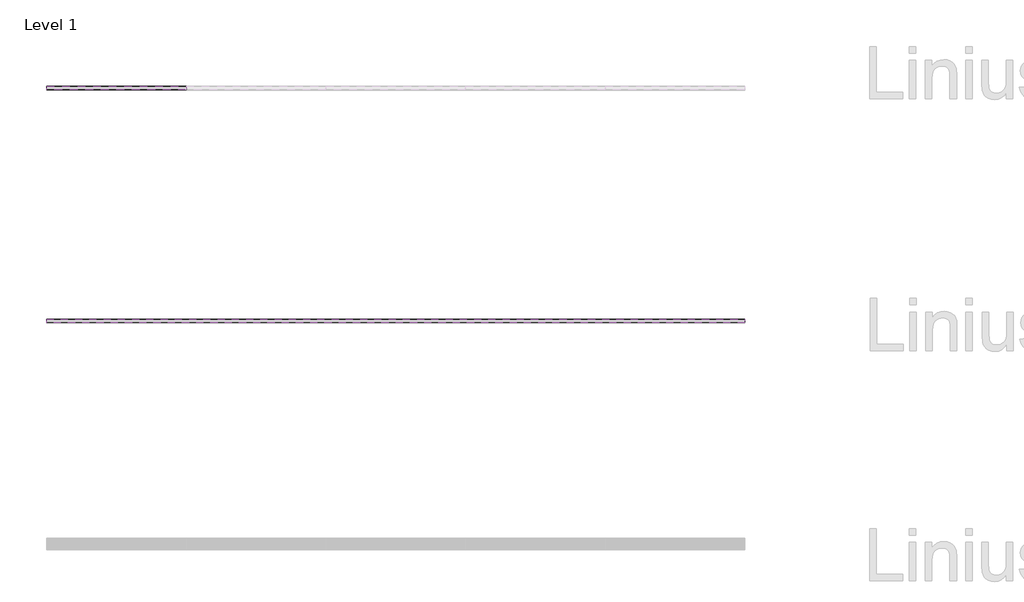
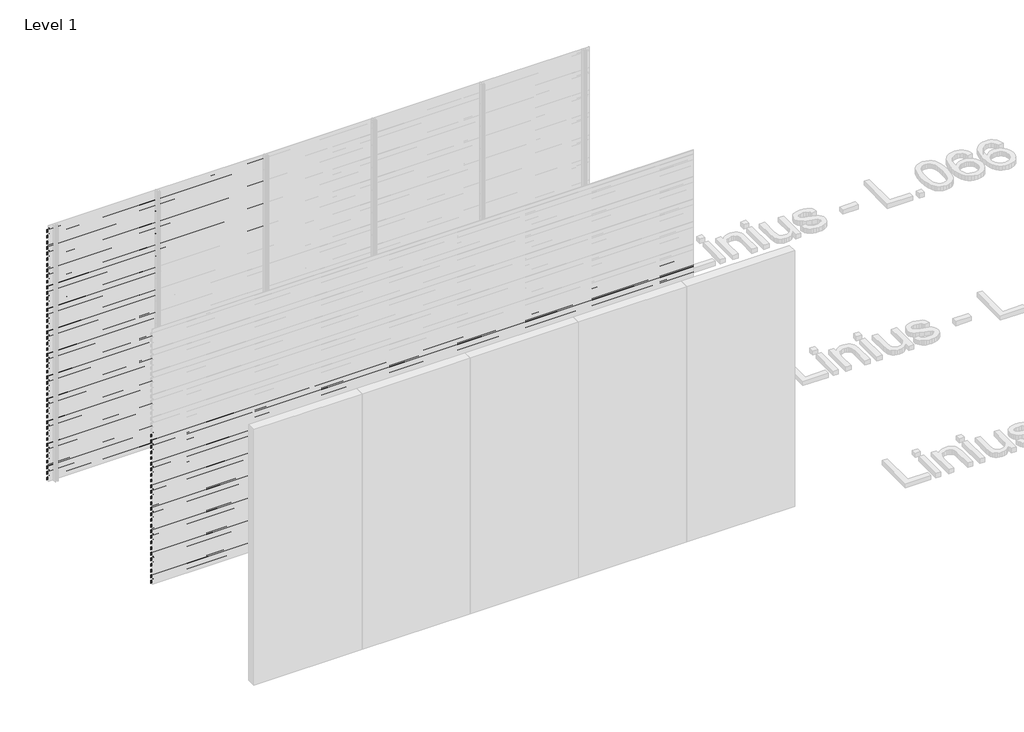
# One storey, part 108 of 540: 85 proxies.
"""IFC4 building model written with IfcOpenShell, lengths in millimetres."""

from ifc_helpers import new_model, si_unit, frame, origin, place, context, project, spatial, polyline, outline, extrude, element, save

model = new_model("IFC4")

# Units and contexts
model_context = context("Model", 3, world=origin())
ifc_project = project(units=[si_unit("LENGTHUNIT", "METRE", prefix="MILLI")], contexts=[model_context])

# Site, building, storey
site = spatial("IfcSite", under=ifc_project)
building = spatial("IfcBuilding", under=site)
storey = spatial("IfcBuildingStorey", under=building, Name="Level 1", Elevation=0.0)

# Proxies
placement = place(None, origin())
element("IfcBuildingElementProxy", 1, Name="Wall Sweeps", at=placement, inside=storey, context=model_context, shape_type="SweptSolid", body=[
    extrude(outline(polyline([(59014.0540136, 2930.0), (59014.0540136, 2897.0), (59012.8040136, 2897.7216933), (59012.8040136, 2929.2872415), (58983.0540136, 2950.0588647), (58983.0540136, 2970.0), (58984.3040136, 2970.0), (58984.3040136, 2950.7716232), (59014.0540136, 2930.0)])), frame((44966.6208097, 0.0, 0.0), z_axis=(1.0, 0.0, 0.0), x_axis=(0.0, 1.0, 0.0)), (0.0, 0.0, 1.0), 1200.0),
])
element("IfcBuildingElementProxy", 2, Name="Wall Sweeps", at=placement, inside=storey, context=model_context, shape_type="SweptSolid", body=[
    extrude(outline(polyline([(59014.0540136, 2864.0), (59014.0540136, 2831.0), (59012.8040136, 2831.7216933), (59012.8040136, 2863.2872415), (58983.0540136, 2884.0588647), (58983.0540136, 2904.0), (58984.3040136, 2904.0), (58984.3040136, 2884.7716232), (59014.0540136, 2864.0)])), frame((44966.6208097, 0.0, 0.0), z_axis=(1.0, 0.0, 0.0), x_axis=(0.0, 1.0, 0.0)), (0.0, 0.0, 1.0), 1200.0),
])
element("IfcBuildingElementProxy", 3, Name="Wall Sweeps", at=placement, inside=storey, context=model_context, shape_type="SweptSolid", body=[
    extrude(outline(polyline([(59014.0540136, 2798.0), (59014.0540136, 2765.0), (59012.8040136, 2765.7216933), (59012.8040136, 2797.2872415), (58983.0540136, 2818.0588647), (58983.0540136, 2838.0), (58984.3040136, 2838.0), (58984.3040136, 2818.7716232), (59014.0540136, 2798.0)])), frame((44966.6208097, 0.0, 0.0), z_axis=(1.0, 0.0, 0.0), x_axis=(0.0, 1.0, 0.0)), (0.0, 0.0, 1.0), 1200.0),
])
element("IfcBuildingElementProxy", 4, Name="Wall Sweeps", at=placement, inside=storey, context=model_context, shape_type="SweptSolid", body=[
    extrude(outline(polyline([(59014.0540136, 2732.0), (59014.0540136, 2699.0), (59012.8040136, 2699.7216933), (59012.8040136, 2731.2872415), (58983.0540136, 2752.0588647), (58983.0540136, 2772.0), (58984.3040136, 2772.0), (58984.3040136, 2752.7716232), (59014.0540136, 2732.0)])), frame((44966.6208097, 0.0, 0.0), z_axis=(1.0, 0.0, 0.0), x_axis=(0.0, 1.0, 0.0)), (0.0, 0.0, 1.0), 1200.0),
])
element("IfcBuildingElementProxy", 5, Name="Wall Sweeps", at=placement, inside=storey, context=model_context, shape_type="SweptSolid", body=[
    extrude(outline(polyline([(59014.0540136, 2666.0), (59014.0540136, 2633.0), (59012.8040136, 2633.7216933), (59012.8040136, 2665.2872415), (58983.0540136, 2686.0588647), (58983.0540136, 2706.0), (58984.3040136, 2706.0), (58984.3040136, 2686.7716232), (59014.0540136, 2666.0)])), frame((44966.6208097, 0.0, 0.0), z_axis=(1.0, 0.0, 0.0), x_axis=(0.0, 1.0, 0.0)), (0.0, 0.0, 1.0), 1200.0),
])
element("IfcBuildingElementProxy", 6, Name="Wall Sweeps", at=placement, inside=storey, context=model_context, shape_type="SweptSolid", body=[
    extrude(outline(polyline([(59014.0540136, 2600.0), (59014.0540136, 2567.0), (59012.8040136, 2567.7216933), (59012.8040136, 2599.2872415), (58983.0540136, 2620.0588647), (58983.0540136, 2640.0), (58984.3040136, 2640.0), (58984.3040136, 2620.7716232), (59014.0540136, 2600.0)])), frame((44966.6208097, 0.0, 0.0), z_axis=(1.0, 0.0, 0.0), x_axis=(0.0, 1.0, 0.0)), (0.0, 0.0, 1.0), 1200.0),
])
element("IfcBuildingElementProxy", 7, Name="Wall Sweeps", at=placement, inside=storey, context=model_context, shape_type="SweptSolid", body=[
    extrude(outline(polyline([(59014.0540136, 2534.0), (59014.0540136, 2501.0), (59012.8040136, 2501.7216933), (59012.8040136, 2533.2872415), (58983.0540136, 2554.0588647), (58983.0540136, 2574.0), (58984.3040136, 2574.0), (58984.3040136, 2554.7716232), (59014.0540136, 2534.0)])), frame((44966.6208097, 0.0, 0.0), z_axis=(1.0, 0.0, 0.0), x_axis=(0.0, 1.0, 0.0)), (0.0, 0.0, 1.0), 1200.0),
])
element("IfcBuildingElementProxy", 8, Name="Wall Sweeps", at=placement, inside=storey, context=model_context, shape_type="SweptSolid", body=[
    extrude(outline(polyline([(59014.0540136, 2468.0), (59014.0540136, 2435.0), (59012.8040136, 2435.7216933), (59012.8040136, 2467.2872415), (58983.0540136, 2488.0588647), (58983.0540136, 2508.0), (58984.3040136, 2508.0), (58984.3040136, 2488.7716232), (59014.0540136, 2468.0)])), frame((44966.6208097, 0.0, 0.0), z_axis=(1.0, 0.0, 0.0), x_axis=(0.0, 1.0, 0.0)), (0.0, 0.0, 1.0), 1200.0),
])
element("IfcBuildingElementProxy", 9, Name="Wall Sweeps", at=placement, inside=storey, context=model_context, shape_type="SweptSolid", body=[
    extrude(outline(polyline([(59014.0540136, 2402.0), (59014.0540136, 2369.0), (59012.8040136, 2369.7216933), (59012.8040136, 2401.2872415), (58983.0540136, 2422.0588647), (58983.0540136, 2442.0), (58984.3040136, 2442.0), (58984.3040136, 2422.7716232), (59014.0540136, 2402.0)])), frame((44966.6208097, 0.0, 0.0), z_axis=(1.0, 0.0, 0.0), x_axis=(0.0, 1.0, 0.0)), (0.0, 0.0, 1.0), 1200.0),
])
element("IfcBuildingElementProxy", 10, Name="Wall Sweeps", at=placement, inside=storey, context=model_context, shape_type="SweptSolid", body=[
    extrude(outline(polyline([(59014.0540136, 2336.0), (59014.0540136, 2303.0), (59012.8040136, 2303.7216933), (59012.8040136, 2335.2872415), (58983.0540136, 2356.0588647), (58983.0540136, 2376.0), (58984.3040136, 2376.0), (58984.3040136, 2356.7716232), (59014.0540136, 2336.0)])), frame((44966.6208097, 0.0, 0.0), z_axis=(1.0, 0.0, 0.0), x_axis=(0.0, 1.0, 0.0)), (0.0, 0.0, 1.0), 1200.0),
])
element("IfcBuildingElementProxy", 11, Name="Wall Sweeps", at=placement, inside=storey, context=model_context, shape_type="SweptSolid", body=[
    extrude(outline(polyline([(59014.0540136, 2270.0), (59014.0540136, 2237.0), (59012.8040136, 2237.7216933), (59012.8040136, 2269.2872415), (58983.0540136, 2290.0588647), (58983.0540136, 2310.0), (58984.3040136, 2310.0), (58984.3040136, 2290.7716232), (59014.0540136, 2270.0)])), frame((44966.6208097, 0.0, 0.0), z_axis=(1.0, 0.0, 0.0), x_axis=(0.0, 1.0, 0.0)), (0.0, 0.0, 1.0), 1200.0),
])
element("IfcBuildingElementProxy", 12, Name="Wall Sweeps", at=placement, inside=storey, context=model_context, shape_type="SweptSolid", body=[
    extrude(outline(polyline([(59014.0540136, 2204.0), (59014.0540136, 2171.0), (59012.8040136, 2171.7216933), (59012.8040136, 2203.2872415), (58983.0540136, 2224.0588647), (58983.0540136, 2244.0), (58984.3040136, 2244.0), (58984.3040136, 2224.7716232), (59014.0540136, 2204.0)])), frame((44966.6208097, 0.0, 0.0), z_axis=(1.0, 0.0, 0.0), x_axis=(0.0, 1.0, 0.0)), (0.0, 0.0, 1.0), 1200.0),
])
element("IfcBuildingElementProxy", 13, Name="Wall Sweeps", at=placement, inside=storey, context=model_context, shape_type="SweptSolid", body=[
    extrude(outline(polyline([(59014.0540136, 2138.0), (59014.0540136, 2105.0), (59012.8040136, 2105.7216933), (59012.8040136, 2137.2872415), (58983.0540136, 2158.0588647), (58983.0540136, 2178.0), (58984.3040136, 2178.0), (58984.3040136, 2158.7716232), (59014.0540136, 2138.0)])), frame((44966.6208097, 0.0, 0.0), z_axis=(1.0, 0.0, 0.0), x_axis=(0.0, 1.0, 0.0)), (0.0, 0.0, 1.0), 1200.0),
])
element("IfcBuildingElementProxy", 14, Name="Wall Sweeps", at=placement, inside=storey, context=model_context, shape_type="SweptSolid", body=[
    extrude(outline(polyline([(59014.0540136, 2072.0), (59014.0540136, 2039.0), (59012.8040136, 2039.7216933), (59012.8040136, 2071.2872415), (58983.0540136, 2092.0588647), (58983.0540136, 2112.0), (58984.3040136, 2112.0), (58984.3040136, 2092.7716232), (59014.0540136, 2072.0)])), frame((44966.6208097, 0.0, 0.0), z_axis=(1.0, 0.0, 0.0), x_axis=(0.0, 1.0, 0.0)), (0.0, 0.0, 1.0), 1200.0),
])
element("IfcBuildingElementProxy", 15, Name="Wall Sweeps", at=placement, inside=storey, context=model_context, shape_type="SweptSolid", body=[
    extrude(outline(polyline([(59014.0540136, 2006.0), (59014.0540136, 1973.0), (59012.8040136, 1973.7216933), (59012.8040136, 2005.2872415), (58983.0540136, 2026.0588647), (58983.0540136, 2046.0), (58984.3040136, 2046.0), (58984.3040136, 2026.7716232), (59014.0540136, 2006.0)])), frame((44966.6208097, 0.0, 0.0), z_axis=(1.0, 0.0, 0.0), x_axis=(0.0, 1.0, 0.0)), (0.0, 0.0, 1.0), 1200.0),
])
element("IfcBuildingElementProxy", 16, Name="Wall Sweeps", at=placement, inside=storey, context=model_context, shape_type="SweptSolid", body=[
    extrude(outline(polyline([(59014.0540136, 1940.0), (59014.0540136, 1907.0), (59012.8040136, 1907.7216933), (59012.8040136, 1939.2872415), (58983.0540136, 1960.0588647), (58983.0540136, 1980.0), (58984.3040136, 1980.0), (58984.3040136, 1960.7716232), (59014.0540136, 1940.0)])), frame((44966.6208097, 0.0, 0.0), z_axis=(1.0, 0.0, 0.0), x_axis=(0.0, 1.0, 0.0)), (0.0, 0.0, 1.0), 1200.0),
])
element("IfcBuildingElementProxy", 17, Name="Wall Sweeps", at=placement, inside=storey, context=model_context, shape_type="SweptSolid", body=[
    extrude(outline(polyline([(59014.0540136, 1874.0), (59014.0540136, 1841.0), (59012.8040136, 1841.7216933), (59012.8040136, 1873.2872415), (58983.0540136, 1894.0588647), (58983.0540136, 1914.0), (58984.3040136, 1914.0), (58984.3040136, 1894.7716232), (59014.0540136, 1874.0)])), frame((44966.6208097, 0.0, 0.0), z_axis=(1.0, 0.0, 0.0), x_axis=(0.0, 1.0, 0.0)), (0.0, 0.0, 1.0), 1200.0),
])
element("IfcBuildingElementProxy", 18, Name="Wall Sweeps", at=placement, inside=storey, context=model_context, shape_type="SweptSolid", body=[
    extrude(outline(polyline([(59014.0540136, 1808.0), (59014.0540136, 1775.0), (59012.8040136, 1775.7216933), (59012.8040136, 1807.2872415), (58983.0540136, 1828.0588647), (58983.0540136, 1848.0), (58984.3040136, 1848.0), (58984.3040136, 1828.7716232), (59014.0540136, 1808.0)])), frame((44966.6208097, 0.0, 0.0), z_axis=(1.0, 0.0, 0.0), x_axis=(0.0, 1.0, 0.0)), (0.0, 0.0, 1.0), 1200.0),
])
element("IfcBuildingElementProxy", 19, Name="Wall Sweeps", at=placement, inside=storey, context=model_context, shape_type="SweptSolid", body=[
    extrude(outline(polyline([(59014.0540136, 1742.0), (59014.0540136, 1709.0), (59012.8040136, 1709.7216933), (59012.8040136, 1741.2872415), (58983.0540136, 1762.0588647), (58983.0540136, 1782.0), (58984.3040136, 1782.0), (58984.3040136, 1762.7716232), (59014.0540136, 1742.0)])), frame((44966.6208097, 0.0, 0.0), z_axis=(1.0, 0.0, 0.0), x_axis=(0.0, 1.0, 0.0)), (0.0, 0.0, 1.0), 1200.0),
])
element("IfcBuildingElementProxy", 20, Name="Wall Sweeps", at=placement, inside=storey, context=model_context, shape_type="SweptSolid", body=[
    extrude(outline(polyline([(59014.0540136, 1676.0), (59014.0540136, 1643.0), (59012.8040136, 1643.7216933), (59012.8040136, 1675.2872415), (58983.0540136, 1696.0588647), (58983.0540136, 1716.0), (58984.3040136, 1716.0), (58984.3040136, 1696.7716232), (59014.0540136, 1676.0)])), frame((44966.6208097, 0.0, 0.0), z_axis=(1.0, 0.0, 0.0), x_axis=(0.0, 1.0, 0.0)), (0.0, 0.0, 1.0), 1200.0),
])
element("IfcBuildingElementProxy", 21, Name="Wall Sweeps", at=placement, inside=storey, context=model_context, shape_type="SweptSolid", body=[
    extrude(outline(polyline([(59014.0540136, 1610.0), (59014.0540136, 1577.0), (59012.8040136, 1577.7216933), (59012.8040136, 1609.2872415), (58983.0540136, 1630.0588647), (58983.0540136, 1650.0), (58984.3040136, 1650.0), (58984.3040136, 1630.7716232), (59014.0540136, 1610.0)])), frame((44966.6208097, 0.0, 0.0), z_axis=(1.0, 0.0, 0.0), x_axis=(0.0, 1.0, 0.0)), (0.0, 0.0, 1.0), 1200.0),
])
element("IfcBuildingElementProxy", 22, Name="Wall Sweeps", at=placement, inside=storey, context=model_context, shape_type="SweptSolid", body=[
    extrude(outline(polyline([(59014.0540136, 1544.0), (59014.0540136, 1511.0), (59012.8040136, 1511.7216933), (59012.8040136, 1543.2872415), (58983.0540136, 1564.0588647), (58983.0540136, 1584.0), (58984.3040136, 1584.0), (58984.3040136, 1564.7716232), (59014.0540136, 1544.0)])), frame((44966.6208097, 0.0, 0.0), z_axis=(1.0, 0.0, 0.0), x_axis=(0.0, 1.0, 0.0)), (0.0, 0.0, 1.0), 1200.0),
])
element("IfcBuildingElementProxy", 23, Name="Wall Sweeps", at=placement, inside=storey, context=model_context, shape_type="SweptSolid", body=[
    extrude(outline(polyline([(59014.0540136, 1478.0), (59014.0540136, 1445.0), (59012.8040136, 1445.7216933), (59012.8040136, 1477.2872415), (58983.0540136, 1498.0588647), (58983.0540136, 1518.0), (58984.3040136, 1518.0), (58984.3040136, 1498.7716232), (59014.0540136, 1478.0)])), frame((44966.6208097, 0.0, 0.0), z_axis=(1.0, 0.0, 0.0), x_axis=(0.0, 1.0, 0.0)), (0.0, 0.0, 1.0), 1200.0),
])
element("IfcBuildingElementProxy", 24, Name="Wall Sweeps", at=placement, inside=storey, context=model_context, shape_type="SweptSolid", body=[
    extrude(outline(polyline([(59014.0540136, 1412.0), (59014.0540136, 1379.0), (59012.8040136, 1379.7216933), (59012.8040136, 1411.2872415), (58983.0540136, 1432.0588647), (58983.0540136, 1452.0), (58984.3040136, 1452.0), (58984.3040136, 1432.7716232), (59014.0540136, 1412.0)])), frame((44966.6208097, 0.0, 0.0), z_axis=(1.0, 0.0, 0.0), x_axis=(0.0, 1.0, 0.0)), (0.0, 0.0, 1.0), 1200.0),
])
element("IfcBuildingElementProxy", 25, Name="Wall Sweeps", at=placement, inside=storey, context=model_context, shape_type="SweptSolid", body=[
    extrude(outline(polyline([(59014.0540136, 1346.0), (59014.0540136, 1313.0), (59012.8040136, 1313.7216933), (59012.8040136, 1345.2872415), (58983.0540136, 1366.0588647), (58983.0540136, 1386.0), (58984.3040136, 1386.0), (58984.3040136, 1366.7716232), (59014.0540136, 1346.0)])), frame((44966.6208097, 0.0, 0.0), z_axis=(1.0, 0.0, 0.0), x_axis=(0.0, 1.0, 0.0)), (0.0, 0.0, 1.0), 1200.0),
])
element("IfcBuildingElementProxy", 26, Name="Wall Sweeps", at=placement, inside=storey, context=model_context, shape_type="SweptSolid", body=[
    extrude(outline(polyline([(59014.0540136, 1280.0), (59014.0540136, 1247.0), (59012.8040136, 1247.7216933), (59012.8040136, 1279.2872415), (58983.0540136, 1300.0588647), (58983.0540136, 1320.0), (58984.3040136, 1320.0), (58984.3040136, 1300.7716232), (59014.0540136, 1280.0)])), frame((44966.6208097, 0.0, 0.0), z_axis=(1.0, 0.0, 0.0), x_axis=(0.0, 1.0, 0.0)), (0.0, 0.0, 1.0), 1200.0),
])
element("IfcBuildingElementProxy", 27, Name="Wall Sweeps", at=placement, inside=storey, context=model_context, shape_type="SweptSolid", body=[
    extrude(outline(polyline([(59014.0540136, 1214.0), (59014.0540136, 1181.0), (59012.8040136, 1181.7216933), (59012.8040136, 1213.2872415), (58983.0540136, 1234.0588647), (58983.0540136, 1254.0), (58984.3040136, 1254.0), (58984.3040136, 1234.7716232), (59014.0540136, 1214.0)])), frame((44966.6208097, 0.0, 0.0), z_axis=(1.0, 0.0, 0.0), x_axis=(0.0, 1.0, 0.0)), (0.0, 0.0, 1.0), 1200.0),
])
element("IfcBuildingElementProxy", 28, Name="Wall Sweeps", at=placement, inside=storey, context=model_context, shape_type="SweptSolid", body=[
    extrude(outline(polyline([(59014.0540136, 1148.0), (59014.0540136, 1115.0), (59012.8040136, 1115.7216933), (59012.8040136, 1147.2872415), (58983.0540136, 1168.0588647), (58983.0540136, 1188.0), (58984.3040136, 1188.0), (58984.3040136, 1168.7716232), (59014.0540136, 1148.0)])), frame((44966.6208097, 0.0, 0.0), z_axis=(1.0, 0.0, 0.0), x_axis=(0.0, 1.0, 0.0)), (0.0, 0.0, 1.0), 1200.0),
])
element("IfcBuildingElementProxy", 29, Name="Wall Sweeps", at=placement, inside=storey, context=model_context, shape_type="SweptSolid", body=[
    extrude(outline(polyline([(59014.0540136, 1082.0), (59014.0540136, 1049.0), (59012.8040136, 1049.7216933), (59012.8040136, 1081.2872415), (58983.0540136, 1102.0588647), (58983.0540136, 1122.0), (58984.3040136, 1122.0), (58984.3040136, 1102.7716232), (59014.0540136, 1082.0)])), frame((44966.6208097, 0.0, 0.0), z_axis=(1.0, 0.0, 0.0), x_axis=(0.0, 1.0, 0.0)), (0.0, 0.0, 1.0), 1200.0),
])
element("IfcBuildingElementProxy", 30, Name="Wall Sweeps", at=placement, inside=storey, context=model_context, shape_type="SweptSolid", body=[
    extrude(outline(polyline([(59014.0540136, 1016.0), (59014.0540136, 983.0), (59012.8040136, 983.7216933), (59012.8040136, 1015.2872415), (58983.0540136, 1036.0588647), (58983.0540136, 1056.0), (58984.3040136, 1056.0), (58984.3040136, 1036.7716232), (59014.0540136, 1016.0)])), frame((44966.6208097, 0.0, 0.0), z_axis=(1.0, 0.0, 0.0), x_axis=(0.0, 1.0, 0.0)), (0.0, 0.0, 1.0), 1200.0),
])
element("IfcBuildingElementProxy", 31, Name="Wall Sweeps", at=placement, inside=storey, context=model_context, shape_type="SweptSolid", body=[
    extrude(outline(polyline([(59014.0540136, 950.0), (59014.0540136, 917.0), (59012.8040136, 917.7216933), (59012.8040136, 949.2872415), (58983.0540136, 970.0588647), (58983.0540136, 990.0), (58984.3040136, 990.0), (58984.3040136, 970.7716232), (59014.0540136, 950.0)])), frame((44966.6208097, 0.0, 0.0), z_axis=(1.0, 0.0, 0.0), x_axis=(0.0, 1.0, 0.0)), (0.0, 0.0, 1.0), 1200.0),
])
element("IfcBuildingElementProxy", 32, Name="Wall Sweeps", at=placement, inside=storey, context=model_context, shape_type="SweptSolid", body=[
    extrude(outline(polyline([(59014.0540136, 884.0), (59014.0540136, 851.0), (59012.8040136, 851.7216933), (59012.8040136, 883.2872415), (58983.0540136, 904.0588647), (58983.0540136, 924.0), (58984.3040136, 924.0), (58984.3040136, 904.7716232), (59014.0540136, 884.0)])), frame((44966.6208097, 0.0, 0.0), z_axis=(1.0, 0.0, 0.0), x_axis=(0.0, 1.0, 0.0)), (0.0, 0.0, 1.0), 1200.0),
])
element("IfcBuildingElementProxy", 33, Name="Wall Sweeps", at=placement, inside=storey, context=model_context, shape_type="SweptSolid", body=[
    extrude(outline(polyline([(59014.0540136, 818.0), (59014.0540136, 785.0), (59012.8040136, 785.7216933), (59012.8040136, 817.2872415), (58983.0540136, 838.0588647), (58983.0540136, 858.0), (58984.3040136, 858.0), (58984.3040136, 838.7716232), (59014.0540136, 818.0)])), frame((44966.6208097, 0.0, 0.0), z_axis=(1.0, 0.0, 0.0), x_axis=(0.0, 1.0, 0.0)), (0.0, 0.0, 1.0), 1200.0),
])
element("IfcBuildingElementProxy", 34, Name="Wall Sweeps", at=placement, inside=storey, context=model_context, shape_type="SweptSolid", body=[
    extrude(outline(polyline([(59014.0540136, 752.0), (59014.0540136, 719.0), (59012.8040136, 719.7216933), (59012.8040136, 751.2872415), (58983.0540136, 772.0588647), (58983.0540136, 792.0), (58984.3040136, 792.0), (58984.3040136, 772.7716232), (59014.0540136, 752.0)])), frame((44966.6208097, 0.0, 0.0), z_axis=(1.0, 0.0, 0.0), x_axis=(0.0, 1.0, 0.0)), (0.0, 0.0, 1.0), 1200.0),
])
element("IfcBuildingElementProxy", 35, Name="Wall Sweeps", at=placement, inside=storey, context=model_context, shape_type="SweptSolid", body=[
    extrude(outline(polyline([(59014.0540136, 686.0), (59014.0540136, 653.0), (59012.8040136, 653.7216933), (59012.8040136, 685.2872415), (58983.0540136, 706.0588647), (58983.0540136, 726.0), (58984.3040136, 726.0), (58984.3040136, 706.7716232), (59014.0540136, 686.0)])), frame((44966.6208097, 0.0, 0.0), z_axis=(1.0, 0.0, 0.0), x_axis=(0.0, 1.0, 0.0)), (0.0, 0.0, 1.0), 1200.0),
])
element("IfcBuildingElementProxy", 36, Name="Wall Sweeps", at=placement, inside=storey, context=model_context, shape_type="SweptSolid", body=[
    extrude(outline(polyline([(59014.0540136, 620.0), (59014.0540136, 587.0), (59012.8040136, 587.7216933), (59012.8040136, 619.2872415), (58983.0540136, 640.0588647), (58983.0540136, 660.0), (58984.3040136, 660.0), (58984.3040136, 640.7716232), (59014.0540136, 620.0)])), frame((44966.6208097, 0.0, 0.0), z_axis=(1.0, 0.0, 0.0), x_axis=(0.0, 1.0, 0.0)), (0.0, 0.0, 1.0), 1200.0),
])
element("IfcBuildingElementProxy", 37, Name="Wall Sweeps", at=placement, inside=storey, context=model_context, shape_type="SweptSolid", body=[
    extrude(outline(polyline([(59014.0540136, 554.0), (59014.0540136, 521.0), (59012.8040136, 521.7216933), (59012.8040136, 553.2872415), (58983.0540136, 574.0588647), (58983.0540136, 594.0), (58984.3040136, 594.0), (58984.3040136, 574.7716232), (59014.0540136, 554.0)])), frame((44966.6208097, 0.0, 0.0), z_axis=(1.0, 0.0, 0.0), x_axis=(0.0, 1.0, 0.0)), (0.0, 0.0, 1.0), 1200.0),
])
element("IfcBuildingElementProxy", 38, Name="Wall Sweeps", at=placement, inside=storey, context=model_context, shape_type="SweptSolid", body=[
    extrude(outline(polyline([(59014.0540136, 488.0), (59014.0540136, 455.0), (59012.8040136, 455.7216933), (59012.8040136, 487.2872415), (58983.0540136, 508.0588647), (58983.0540136, 528.0), (58984.3040136, 528.0), (58984.3040136, 508.7716232), (59014.0540136, 488.0)])), frame((44966.6208097, 0.0, 0.0), z_axis=(1.0, 0.0, 0.0), x_axis=(0.0, 1.0, 0.0)), (0.0, 0.0, 1.0), 1200.0),
])
element("IfcBuildingElementProxy", 39, Name="Wall Sweeps", at=placement, inside=storey, context=model_context, shape_type="SweptSolid", body=[
    extrude(outline(polyline([(59014.0540136, 422.0), (59014.0540136, 389.0), (59012.8040136, 389.7216933), (59012.8040136, 421.2872415), (58983.0540136, 442.0588647), (58983.0540136, 462.0), (58984.3040136, 462.0), (58984.3040136, 442.7716232), (59014.0540136, 422.0)])), frame((44966.6208097, 0.0, 0.0), z_axis=(1.0, 0.0, 0.0), x_axis=(0.0, 1.0, 0.0)), (0.0, 0.0, 1.0), 1200.0),
])
element("IfcBuildingElementProxy", 40, Name="Wall Sweeps", at=placement, inside=storey, context=model_context, shape_type="SweptSolid", body=[
    extrude(outline(polyline([(59014.0540136, 356.0), (59014.0540136, 323.0), (59012.8040136, 323.7216933), (59012.8040136, 355.2872415), (58983.0540136, 376.0588647), (58983.0540136, 396.0), (58984.3040136, 396.0), (58984.3040136, 376.7716232), (59014.0540136, 356.0)])), frame((44966.6208097, 0.0, 0.0), z_axis=(1.0, 0.0, 0.0), x_axis=(0.0, 1.0, 0.0)), (0.0, 0.0, 1.0), 1200.0),
])
element("IfcBuildingElementProxy", 41, Name="Wall Sweeps", at=placement, inside=storey, context=model_context, shape_type="SweptSolid", body=[
    extrude(outline(polyline([(59014.0540136, 290.0), (59014.0540136, 257.0), (59012.8040136, 257.7216933), (59012.8040136, 289.2872415), (58983.0540136, 310.0588647), (58983.0540136, 330.0), (58984.3040136, 330.0), (58984.3040136, 310.7716232), (59014.0540136, 290.0)])), frame((44966.6208097, 0.0, 0.0), z_axis=(1.0, 0.0, 0.0), x_axis=(0.0, 1.0, 0.0)), (0.0, 0.0, 1.0), 1200.0),
])
element("IfcBuildingElementProxy", 42, Name="Wall Sweeps", at=placement, inside=storey, context=model_context, shape_type="SweptSolid", body=[
    extrude(outline(polyline([(59014.0540136, 224.0), (59014.0540136, 191.0), (59012.8040136, 191.7216933), (59012.8040136, 223.2872415), (58983.0540136, 244.0588647), (58983.0540136, 264.0), (58984.3040136, 264.0), (58984.3040136, 244.7716232), (59014.0540136, 224.0)])), frame((44966.6208097, 0.0, 0.0), z_axis=(1.0, 0.0, 0.0), x_axis=(0.0, 1.0, 0.0)), (0.0, 0.0, 1.0), 1200.0),
])
element("IfcBuildingElementProxy", 43, Name="Wall Sweeps", at=placement, inside=storey, context=model_context, shape_type="SweptSolid", body=[
    extrude(outline(polyline([(59014.0540136, 158.0), (59014.0540136, 125.0), (59012.8040136, 125.7216933), (59012.8040136, 157.2872415), (58983.0540136, 178.0588647), (58983.0540136, 198.0), (58984.3040136, 198.0), (58984.3040136, 178.7716232), (59014.0540136, 158.0)])), frame((44966.6208097, 0.0, 0.0), z_axis=(1.0, 0.0, 0.0), x_axis=(0.0, 1.0, 0.0)), (0.0, 0.0, 1.0), 1200.0),
])
element("IfcBuildingElementProxy", 44, Name="Wall Sweeps", at=placement, inside=storey, context=model_context, shape_type="SweptSolid", body=[
    extrude(outline(polyline([(59014.0540136, 92.0), (59014.0540136, 59.0), (59012.8040136, 59.7216933), (59012.8040136, 91.2872415), (58983.0540136, 112.0588647), (58983.0540136, 132.0), (58984.3040136, 132.0), (58984.3040136, 112.7716232), (59014.0540136, 92.0)])), frame((44966.6208097, 0.0, 0.0), z_axis=(1.0, 0.0, 0.0), x_axis=(0.0, 1.0, 0.0)), (0.0, 0.0, 1.0), 1200.0),
])
element("IfcBuildingElementProxy", 45, Name="Wall Sweeps", at=placement, inside=storey, context=model_context, shape_type="SweptSolid", body=[
    extrude(outline(polyline([(59014.0540136, 26.0), (59014.0540136, -7.0), (59012.8040136, -6.2783067), (59012.8040136, 25.2872415), (58983.0540136, 46.0588647), (58983.0540136, 66.0), (58984.3040136, 66.0), (58984.3040136, 46.7716232), (59014.0540136, 26.0)])), frame((44966.6208097, 0.0, 0.0), z_axis=(1.0, 0.0, 0.0), x_axis=(0.0, 1.0, 0.0)), (0.0, 0.0, 1.0), 1200.0),
])
element("IfcBuildingElementProxy", 46, Name="Wall Sweeps", at=placement, inside=storey, context=model_context, shape_type="SweptSolid", body=[
    extrude(outline(polyline([(59014.0540136, 2930.0), (59014.0540136, 2897.0), (59012.8040136, 2897.7216933), (59012.8040136, 2929.2872415), (58983.0540136, 2950.0588647), (58983.0540136, 2970.0), (58984.3040136, 2970.0), (58984.3040136, 2950.7716232), (59014.0540136, 2930.0)])), frame((46166.6208097, 0.0, 0.0), z_axis=(1.0, 0.0, 0.0), x_axis=(0.0, 1.0, 0.0)), (0.0, 0.0, 1.0), 1200.0),
])
element("IfcBuildingElementProxy", 47, Name="Wall Sweeps", at=placement, inside=storey, context=model_context, shape_type="SweptSolid", body=[
    extrude(outline(polyline([(59014.0540136, 2864.0), (59014.0540136, 2831.0), (59012.8040136, 2831.7216933), (59012.8040136, 2863.2872415), (58983.0540136, 2884.0588647), (58983.0540136, 2904.0), (58984.3040136, 2904.0), (58984.3040136, 2884.7716232), (59014.0540136, 2864.0)])), frame((46166.6208097, 0.0, 0.0), z_axis=(1.0, 0.0, 0.0), x_axis=(0.0, 1.0, 0.0)), (0.0, 0.0, 1.0), 1200.0),
])
element("IfcBuildingElementProxy", 48, Name="Wall Sweeps", at=placement, inside=storey, context=model_context, shape_type="SweptSolid", body=[
    extrude(outline(polyline([(59014.0540136, 2798.0), (59014.0540136, 2765.0), (59012.8040136, 2765.7216933), (59012.8040136, 2797.2872415), (58983.0540136, 2818.0588647), (58983.0540136, 2838.0), (58984.3040136, 2838.0), (58984.3040136, 2818.7716232), (59014.0540136, 2798.0)])), frame((46166.6208097, 0.0, 0.0), z_axis=(1.0, 0.0, 0.0), x_axis=(0.0, 1.0, 0.0)), (0.0, 0.0, 1.0), 1200.0),
])
element("IfcBuildingElementProxy", 49, Name="Wall Sweeps", at=placement, inside=storey, context=model_context, shape_type="SweptSolid", body=[
    extrude(outline(polyline([(59014.0540136, 2732.0), (59014.0540136, 2699.0), (59012.8040136, 2699.7216933), (59012.8040136, 2731.2872415), (58983.0540136, 2752.0588647), (58983.0540136, 2772.0), (58984.3040136, 2772.0), (58984.3040136, 2752.7716232), (59014.0540136, 2732.0)])), frame((46166.6208097, 0.0, 0.0), z_axis=(1.0, 0.0, 0.0), x_axis=(0.0, 1.0, 0.0)), (0.0, 0.0, 1.0), 1200.0),
])
element("IfcBuildingElementProxy", 50, Name="Wall Sweeps", at=placement, inside=storey, context=model_context, shape_type="SweptSolid", body=[
    extrude(outline(polyline([(59014.0540136, 2666.0), (59014.0540136, 2633.0), (59012.8040136, 2633.7216933), (59012.8040136, 2665.2872415), (58983.0540136, 2686.0588647), (58983.0540136, 2706.0), (58984.3040136, 2706.0), (58984.3040136, 2686.7716232), (59014.0540136, 2666.0)])), frame((46166.6208097, 0.0, 0.0), z_axis=(1.0, 0.0, 0.0), x_axis=(0.0, 1.0, 0.0)), (0.0, 0.0, 1.0), 1200.0),
])
element("IfcBuildingElementProxy", 51, Name="Wall Sweeps", at=placement, inside=storey, context=model_context, shape_type="SweptSolid", body=[
    extrude(outline(polyline([(59014.0540136, 2600.0), (59014.0540136, 2567.0), (59012.8040136, 2567.7216933), (59012.8040136, 2599.2872415), (58983.0540136, 2620.0588647), (58983.0540136, 2640.0), (58984.3040136, 2640.0), (58984.3040136, 2620.7716232), (59014.0540136, 2600.0)])), frame((46166.6208097, 0.0, 0.0), z_axis=(1.0, 0.0, 0.0), x_axis=(0.0, 1.0, 0.0)), (0.0, 0.0, 1.0), 1200.0),
])
element("IfcBuildingElementProxy", 52, Name="Wall Sweeps", at=placement, inside=storey, context=model_context, shape_type="SweptSolid", body=[
    extrude(outline(polyline([(59014.0540136, 2534.0), (59014.0540136, 2501.0), (59012.8040136, 2501.7216933), (59012.8040136, 2533.2872415), (58983.0540136, 2554.0588647), (58983.0540136, 2574.0), (58984.3040136, 2574.0), (58984.3040136, 2554.7716232), (59014.0540136, 2534.0)])), frame((46166.6208097, 0.0, 0.0), z_axis=(1.0, 0.0, 0.0), x_axis=(0.0, 1.0, 0.0)), (0.0, 0.0, 1.0), 1200.0),
])
element("IfcBuildingElementProxy", 53, Name="Wall Sweeps", at=placement, inside=storey, context=model_context, shape_type="SweptSolid", body=[
    extrude(outline(polyline([(59014.0540136, 2468.0), (59014.0540136, 2435.0), (59012.8040136, 2435.7216933), (59012.8040136, 2467.2872415), (58983.0540136, 2488.0588647), (58983.0540136, 2508.0), (58984.3040136, 2508.0), (58984.3040136, 2488.7716232), (59014.0540136, 2468.0)])), frame((46166.6208097, 0.0, 0.0), z_axis=(1.0, 0.0, 0.0), x_axis=(0.0, 1.0, 0.0)), (0.0, 0.0, 1.0), 1200.0),
])
element("IfcBuildingElementProxy", 54, Name="Wall Sweeps", at=placement, inside=storey, context=model_context, shape_type="SweptSolid", body=[
    extrude(outline(polyline([(59014.0540136, 2402.0), (59014.0540136, 2369.0), (59012.8040136, 2369.7216933), (59012.8040136, 2401.2872415), (58983.0540136, 2422.0588647), (58983.0540136, 2442.0), (58984.3040136, 2442.0), (58984.3040136, 2422.7716232), (59014.0540136, 2402.0)])), frame((46166.6208097, 0.0, 0.0), z_axis=(1.0, 0.0, 0.0), x_axis=(0.0, 1.0, 0.0)), (0.0, 0.0, 1.0), 1200.0),
])
element("IfcBuildingElementProxy", 55, Name="Wall Sweeps", at=placement, inside=storey, context=model_context, shape_type="SweptSolid", body=[
    extrude(outline(polyline([(59014.0540136, 2336.0), (59014.0540136, 2303.0), (59012.8040136, 2303.7216933), (59012.8040136, 2335.2872415), (58983.0540136, 2356.0588647), (58983.0540136, 2376.0), (58984.3040136, 2376.0), (58984.3040136, 2356.7716232), (59014.0540136, 2336.0)])), frame((46166.6208097, 0.0, 0.0), z_axis=(1.0, 0.0, 0.0), x_axis=(0.0, 1.0, 0.0)), (0.0, 0.0, 1.0), 1200.0),
])
element("IfcBuildingElementProxy", 56, Name="Wall Sweeps", at=placement, inside=storey, context=model_context, shape_type="SweptSolid", body=[
    extrude(outline(polyline([(59014.0540136, 2270.0), (59014.0540136, 2237.0), (59012.8040136, 2237.7216933), (59012.8040136, 2269.2872415), (58983.0540136, 2290.0588647), (58983.0540136, 2310.0), (58984.3040136, 2310.0), (58984.3040136, 2290.7716232), (59014.0540136, 2270.0)])), frame((46166.6208097, 0.0, 0.0), z_axis=(1.0, 0.0, 0.0), x_axis=(0.0, 1.0, 0.0)), (0.0, 0.0, 1.0), 1200.0),
])
element("IfcBuildingElementProxy", 57, Name="Wall Sweeps", at=placement, inside=storey, context=model_context, shape_type="SweptSolid", body=[
    extrude(outline(polyline([(59014.0540136, 2204.0), (59014.0540136, 2171.0), (59012.8040136, 2171.7216933), (59012.8040136, 2203.2872415), (58983.0540136, 2224.0588647), (58983.0540136, 2244.0), (58984.3040136, 2244.0), (58984.3040136, 2224.7716232), (59014.0540136, 2204.0)])), frame((46166.6208097, 0.0, 0.0), z_axis=(1.0, 0.0, 0.0), x_axis=(0.0, 1.0, 0.0)), (0.0, 0.0, 1.0), 1200.0),
])
element("IfcBuildingElementProxy", 58, Name="Wall Sweeps", at=placement, inside=storey, context=model_context, shape_type="SweptSolid", body=[
    extrude(outline(polyline([(59014.0540136, 2138.0), (59014.0540136, 2105.0), (59012.8040136, 2105.7216933), (59012.8040136, 2137.2872415), (58983.0540136, 2158.0588647), (58983.0540136, 2178.0), (58984.3040136, 2178.0), (58984.3040136, 2158.7716232), (59014.0540136, 2138.0)])), frame((46166.6208097, 0.0, 0.0), z_axis=(1.0, 0.0, 0.0), x_axis=(0.0, 1.0, 0.0)), (0.0, 0.0, 1.0), 1200.0),
])
element("IfcBuildingElementProxy", 59, Name="Wall Sweeps", at=placement, inside=storey, context=model_context, shape_type="SweptSolid", body=[
    extrude(outline(polyline([(57014.0540136, 1742.0), (57014.0540136, 1709.0), (57012.8040136, 1709.7216933), (57012.8040136, 1741.2872415), (56983.0540136, 1762.0588647), (56983.0540136, 1782.0), (56984.3040136, 1782.0), (56984.3040136, 1762.7716232), (57014.0540136, 1742.0)])), frame((44966.6208097, 0.0, 0.0), z_axis=(1.0, 0.0, 0.0), x_axis=(0.0, 1.0, 0.0)), (0.0, 0.0, 1.0), 6000.0),
])
element("IfcBuildingElementProxy", 60, Name="Wall Sweeps", at=placement, inside=storey, context=model_context, shape_type="SweptSolid", body=[
    extrude(outline(polyline([(57014.0540136, 1676.0), (57014.0540136, 1643.0), (57012.8040136, 1643.7216933), (57012.8040136, 1675.2872415), (56983.0540136, 1696.0588647), (56983.0540136, 1716.0), (56984.3040136, 1716.0), (56984.3040136, 1696.7716232), (57014.0540136, 1676.0)])), frame((44966.6208097, 0.0, 0.0), z_axis=(1.0, 0.0, 0.0), x_axis=(0.0, 1.0, 0.0)), (0.0, 0.0, 1.0), 6000.0),
])
element("IfcBuildingElementProxy", 61, Name="Wall Sweeps", at=placement, inside=storey, context=model_context, shape_type="SweptSolid", body=[
    extrude(outline(polyline([(57014.0540136, 1610.0), (57014.0540136, 1577.0), (57012.8040136, 1577.7216933), (57012.8040136, 1609.2872415), (56983.0540136, 1630.0588647), (56983.0540136, 1650.0), (56984.3040136, 1650.0), (56984.3040136, 1630.7716232), (57014.0540136, 1610.0)])), frame((44966.6208097, 0.0, 0.0), z_axis=(1.0, 0.0, 0.0), x_axis=(0.0, 1.0, 0.0)), (0.0, 0.0, 1.0), 6000.0),
])
element("IfcBuildingElementProxy", 62, Name="Wall Sweeps", at=placement, inside=storey, context=model_context, shape_type="SweptSolid", body=[
    extrude(outline(polyline([(57014.0540136, 1544.0), (57014.0540136, 1511.0), (57012.8040136, 1511.7216933), (57012.8040136, 1543.2872415), (56983.0540136, 1564.0588647), (56983.0540136, 1584.0), (56984.3040136, 1584.0), (56984.3040136, 1564.7716232), (57014.0540136, 1544.0)])), frame((44966.6208097, 0.0, 0.0), z_axis=(1.0, 0.0, 0.0), x_axis=(0.0, 1.0, 0.0)), (0.0, 0.0, 1.0), 6000.0),
])
element("IfcBuildingElementProxy", 63, Name="Wall Sweeps", at=placement, inside=storey, context=model_context, shape_type="SweptSolid", body=[
    extrude(outline(polyline([(57014.0540136, 1478.0), (57014.0540136, 1445.0), (57012.8040136, 1445.7216933), (57012.8040136, 1477.2872415), (56983.0540136, 1498.0588647), (56983.0540136, 1518.0), (56984.3040136, 1518.0), (56984.3040136, 1498.7716232), (57014.0540136, 1478.0)])), frame((44966.6208097, 0.0, 0.0), z_axis=(1.0, 0.0, 0.0), x_axis=(0.0, 1.0, 0.0)), (0.0, 0.0, 1.0), 6000.0),
])
element("IfcBuildingElementProxy", 64, Name="Wall Sweeps", at=placement, inside=storey, context=model_context, shape_type="SweptSolid", body=[
    extrude(outline(polyline([(57014.0540136, 1412.0), (57014.0540136, 1379.0), (57012.8040136, 1379.7216933), (57012.8040136, 1411.2872415), (56983.0540136, 1432.0588647), (56983.0540136, 1452.0), (56984.3040136, 1452.0), (56984.3040136, 1432.7716232), (57014.0540136, 1412.0)])), frame((44966.6208097, 0.0, 0.0), z_axis=(1.0, 0.0, 0.0), x_axis=(0.0, 1.0, 0.0)), (0.0, 0.0, 1.0), 6000.0),
])
element("IfcBuildingElementProxy", 65, Name="Wall Sweeps", at=placement, inside=storey, context=model_context, shape_type="SweptSolid", body=[
    extrude(outline(polyline([(57014.0540136, 1346.0), (57014.0540136, 1313.0), (57012.8040136, 1313.7216933), (57012.8040136, 1345.2872415), (56983.0540136, 1366.0588647), (56983.0540136, 1386.0), (56984.3040136, 1386.0), (56984.3040136, 1366.7716232), (57014.0540136, 1346.0)])), frame((44966.6208097, 0.0, 0.0), z_axis=(1.0, 0.0, 0.0), x_axis=(0.0, 1.0, 0.0)), (0.0, 0.0, 1.0), 6000.0),
])
element("IfcBuildingElementProxy", 66, Name="Wall Sweeps", at=placement, inside=storey, context=model_context, shape_type="SweptSolid", body=[
    extrude(outline(polyline([(57014.0540136, 1280.0), (57014.0540136, 1247.0), (57012.8040136, 1247.7216933), (57012.8040136, 1279.2872415), (56983.0540136, 1300.0588647), (56983.0540136, 1320.0), (56984.3040136, 1320.0), (56984.3040136, 1300.7716232), (57014.0540136, 1280.0)])), frame((44966.6208097, 0.0, 0.0), z_axis=(1.0, 0.0, 0.0), x_axis=(0.0, 1.0, 0.0)), (0.0, 0.0, 1.0), 6000.0),
])
element("IfcBuildingElementProxy", 67, Name="Wall Sweeps", at=placement, inside=storey, context=model_context, shape_type="SweptSolid", body=[
    extrude(outline(polyline([(57014.0540136, 1214.0), (57014.0540136, 1181.0), (57012.8040136, 1181.7216933), (57012.8040136, 1213.2872415), (56983.0540136, 1234.0588647), (56983.0540136, 1254.0), (56984.3040136, 1254.0), (56984.3040136, 1234.7716232), (57014.0540136, 1214.0)])), frame((44966.6208097, 0.0, 0.0), z_axis=(1.0, 0.0, 0.0), x_axis=(0.0, 1.0, 0.0)), (0.0, 0.0, 1.0), 6000.0),
])
element("IfcBuildingElementProxy", 68, Name="Wall Sweeps", at=placement, inside=storey, context=model_context, shape_type="SweptSolid", body=[
    extrude(outline(polyline([(57014.0540136, 1148.0), (57014.0540136, 1115.0), (57012.8040136, 1115.7216933), (57012.8040136, 1147.2872415), (56983.0540136, 1168.0588647), (56983.0540136, 1188.0), (56984.3040136, 1188.0), (56984.3040136, 1168.7716232), (57014.0540136, 1148.0)])), frame((44966.6208097, 0.0, 0.0), z_axis=(1.0, 0.0, 0.0), x_axis=(0.0, 1.0, 0.0)), (0.0, 0.0, 1.0), 6000.0),
])
element("IfcBuildingElementProxy", 69, Name="Wall Sweeps", at=placement, inside=storey, context=model_context, shape_type="SweptSolid", body=[
    extrude(outline(polyline([(57014.0540136, 1082.0), (57014.0540136, 1049.0), (57012.8040136, 1049.7216933), (57012.8040136, 1081.2872415), (56983.0540136, 1102.0588647), (56983.0540136, 1122.0), (56984.3040136, 1122.0), (56984.3040136, 1102.7716232), (57014.0540136, 1082.0)])), frame((44966.6208097, 0.0, 0.0), z_axis=(1.0, 0.0, 0.0), x_axis=(0.0, 1.0, 0.0)), (0.0, 0.0, 1.0), 6000.0),
])
element("IfcBuildingElementProxy", 70, Name="Wall Sweeps", at=placement, inside=storey, context=model_context, shape_type="SweptSolid", body=[
    extrude(outline(polyline([(57014.0540136, 1016.0), (57014.0540136, 983.0), (57012.8040136, 983.7216933), (57012.8040136, 1015.2872415), (56983.0540136, 1036.0588647), (56983.0540136, 1056.0), (56984.3040136, 1056.0), (56984.3040136, 1036.7716232), (57014.0540136, 1016.0)])), frame((44966.6208097, 0.0, 0.0), z_axis=(1.0, 0.0, 0.0), x_axis=(0.0, 1.0, 0.0)), (0.0, 0.0, 1.0), 6000.0),
])
element("IfcBuildingElementProxy", 71, Name="Wall Sweeps", at=placement, inside=storey, context=model_context, shape_type="SweptSolid", body=[
    extrude(outline(polyline([(57014.0540136, 950.0), (57014.0540136, 917.0), (57012.8040136, 917.7216933), (57012.8040136, 949.2872415), (56983.0540136, 970.0588647), (56983.0540136, 990.0), (56984.3040136, 990.0), (56984.3040136, 970.7716232), (57014.0540136, 950.0)])), frame((44966.6208097, 0.0, 0.0), z_axis=(1.0, 0.0, 0.0), x_axis=(0.0, 1.0, 0.0)), (0.0, 0.0, 1.0), 6000.0),
])
element("IfcBuildingElementProxy", 72, Name="Wall Sweeps", at=placement, inside=storey, context=model_context, shape_type="SweptSolid", body=[
    extrude(outline(polyline([(57014.0540136, 884.0), (57014.0540136, 851.0), (57012.8040136, 851.7216933), (57012.8040136, 883.2872415), (56983.0540136, 904.0588647), (56983.0540136, 924.0), (56984.3040136, 924.0), (56984.3040136, 904.7716232), (57014.0540136, 884.0)])), frame((44966.6208097, 0.0, 0.0), z_axis=(1.0, 0.0, 0.0), x_axis=(0.0, 1.0, 0.0)), (0.0, 0.0, 1.0), 6000.0),
])
element("IfcBuildingElementProxy", 73, Name="Wall Sweeps", at=placement, inside=storey, context=model_context, shape_type="SweptSolid", body=[
    extrude(outline(polyline([(57014.0540136, 818.0), (57014.0540136, 785.0), (57012.8040136, 785.7216933), (57012.8040136, 817.2872415), (56983.0540136, 838.0588647), (56983.0540136, 858.0), (56984.3040136, 858.0), (56984.3040136, 838.7716232), (57014.0540136, 818.0)])), frame((44966.6208097, 0.0, 0.0), z_axis=(1.0, 0.0, 0.0), x_axis=(0.0, 1.0, 0.0)), (0.0, 0.0, 1.0), 6000.0),
])
element("IfcBuildingElementProxy", 74, Name="Wall Sweeps", at=placement, inside=storey, context=model_context, shape_type="SweptSolid", body=[
    extrude(outline(polyline([(57014.0540136, 752.0), (57014.0540136, 719.0), (57012.8040136, 719.7216933), (57012.8040136, 751.2872415), (56983.0540136, 772.0588647), (56983.0540136, 792.0), (56984.3040136, 792.0), (56984.3040136, 772.7716232), (57014.0540136, 752.0)])), frame((44966.6208097, 0.0, 0.0), z_axis=(1.0, 0.0, 0.0), x_axis=(0.0, 1.0, 0.0)), (0.0, 0.0, 1.0), 6000.0),
])
element("IfcBuildingElementProxy", 75, Name="Wall Sweeps", at=placement, inside=storey, context=model_context, shape_type="SweptSolid", body=[
    extrude(outline(polyline([(57014.0540136, 686.0), (57014.0540136, 653.0), (57012.8040136, 653.7216933), (57012.8040136, 685.2872415), (56983.0540136, 706.0588647), (56983.0540136, 726.0), (56984.3040136, 726.0), (56984.3040136, 706.7716232), (57014.0540136, 686.0)])), frame((44966.6208097, 0.0, 0.0), z_axis=(1.0, 0.0, 0.0), x_axis=(0.0, 1.0, 0.0)), (0.0, 0.0, 1.0), 6000.0),
])
element("IfcBuildingElementProxy", 76, Name="Wall Sweeps", at=placement, inside=storey, context=model_context, shape_type="SweptSolid", body=[
    extrude(outline(polyline([(57014.0540136, 620.0), (57014.0540136, 587.0), (57012.8040136, 587.7216933), (57012.8040136, 619.2872415), (56983.0540136, 640.0588647), (56983.0540136, 660.0), (56984.3040136, 660.0), (56984.3040136, 640.7716232), (57014.0540136, 620.0)])), frame((44966.6208097, 0.0, 0.0), z_axis=(1.0, 0.0, 0.0), x_axis=(0.0, 1.0, 0.0)), (0.0, 0.0, 1.0), 6000.0),
])
element("IfcBuildingElementProxy", 77, Name="Wall Sweeps", at=placement, inside=storey, context=model_context, shape_type="SweptSolid", body=[
    extrude(outline(polyline([(57014.0540136, 554.0), (57014.0540136, 521.0), (57012.8040136, 521.7216933), (57012.8040136, 553.2872415), (56983.0540136, 574.0588647), (56983.0540136, 594.0), (56984.3040136, 594.0), (56984.3040136, 574.7716232), (57014.0540136, 554.0)])), frame((44966.6208097, 0.0, 0.0), z_axis=(1.0, 0.0, 0.0), x_axis=(0.0, 1.0, 0.0)), (0.0, 0.0, 1.0), 6000.0),
])
element("IfcBuildingElementProxy", 78, Name="Wall Sweeps", at=placement, inside=storey, context=model_context, shape_type="SweptSolid", body=[
    extrude(outline(polyline([(57014.0540136, 488.0), (57014.0540136, 455.0), (57012.8040136, 455.7216933), (57012.8040136, 487.2872415), (56983.0540136, 508.0588647), (56983.0540136, 528.0), (56984.3040136, 528.0), (56984.3040136, 508.7716232), (57014.0540136, 488.0)])), frame((44966.6208097, 0.0, 0.0), z_axis=(1.0, 0.0, 0.0), x_axis=(0.0, 1.0, 0.0)), (0.0, 0.0, 1.0), 6000.0),
])
element("IfcBuildingElementProxy", 79, Name="Wall Sweeps", at=placement, inside=storey, context=model_context, shape_type="SweptSolid", body=[
    extrude(outline(polyline([(57014.0540136, 422.0), (57014.0540136, 389.0), (57012.8040136, 389.7216933), (57012.8040136, 421.2872415), (56983.0540136, 442.0588647), (56983.0540136, 462.0), (56984.3040136, 462.0), (56984.3040136, 442.7716232), (57014.0540136, 422.0)])), frame((44966.6208097, 0.0, 0.0), z_axis=(1.0, 0.0, 0.0), x_axis=(0.0, 1.0, 0.0)), (0.0, 0.0, 1.0), 6000.0),
])
element("IfcBuildingElementProxy", 80, Name="Wall Sweeps", at=placement, inside=storey, context=model_context, shape_type="SweptSolid", body=[
    extrude(outline(polyline([(57014.0540136, 356.0), (57014.0540136, 323.0), (57012.8040136, 323.7216933), (57012.8040136, 355.2872415), (56983.0540136, 376.0588647), (56983.0540136, 396.0), (56984.3040136, 396.0), (56984.3040136, 376.7716232), (57014.0540136, 356.0)])), frame((44966.6208097, 0.0, 0.0), z_axis=(1.0, 0.0, 0.0), x_axis=(0.0, 1.0, 0.0)), (0.0, 0.0, 1.0), 6000.0),
])
element("IfcBuildingElementProxy", 81, Name="Wall Sweeps", at=placement, inside=storey, context=model_context, shape_type="SweptSolid", body=[
    extrude(outline(polyline([(57014.0540136, 290.0), (57014.0540136, 257.0), (57012.8040136, 257.7216933), (57012.8040136, 289.2872415), (56983.0540136, 310.0588647), (56983.0540136, 330.0), (56984.3040136, 330.0), (56984.3040136, 310.7716232), (57014.0540136, 290.0)])), frame((44966.6208097, 0.0, 0.0), z_axis=(1.0, 0.0, 0.0), x_axis=(0.0, 1.0, 0.0)), (0.0, 0.0, 1.0), 6000.0),
])
element("IfcBuildingElementProxy", 82, Name="Wall Sweeps", at=placement, inside=storey, context=model_context, shape_type="SweptSolid", body=[
    extrude(outline(polyline([(57014.0540136, 224.0), (57014.0540136, 191.0), (57012.8040136, 191.7216933), (57012.8040136, 223.2872415), (56983.0540136, 244.0588647), (56983.0540136, 264.0), (56984.3040136, 264.0), (56984.3040136, 244.7716232), (57014.0540136, 224.0)])), frame((44966.6208097, 0.0, 0.0), z_axis=(1.0, 0.0, 0.0), x_axis=(0.0, 1.0, 0.0)), (0.0, 0.0, 1.0), 6000.0),
])
element("IfcBuildingElementProxy", 83, Name="Wall Sweeps", at=placement, inside=storey, context=model_context, shape_type="SweptSolid", body=[
    extrude(outline(polyline([(57014.0540136, 158.0), (57014.0540136, 125.0), (57012.8040136, 125.7216933), (57012.8040136, 157.2872415), (56983.0540136, 178.0588647), (56983.0540136, 198.0), (56984.3040136, 198.0), (56984.3040136, 178.7716232), (57014.0540136, 158.0)])), frame((44966.6208097, 0.0, 0.0), z_axis=(1.0, 0.0, 0.0), x_axis=(0.0, 1.0, 0.0)), (0.0, 0.0, 1.0), 6000.0),
])
element("IfcBuildingElementProxy", 84, Name="Wall Sweeps", at=placement, inside=storey, context=model_context, shape_type="SweptSolid", body=[
    extrude(outline(polyline([(57014.0540136, 92.0), (57014.0540136, 59.0), (57012.8040136, 59.7216933), (57012.8040136, 91.2872415), (56983.0540136, 112.0588647), (56983.0540136, 132.0), (56984.3040136, 132.0), (56984.3040136, 112.7716232), (57014.0540136, 92.0)])), frame((44966.6208097, 0.0, 0.0), z_axis=(1.0, 0.0, 0.0), x_axis=(0.0, 1.0, 0.0)), (0.0, 0.0, 1.0), 6000.0),
])
element("IfcBuildingElementProxy", 85, Name="Wall Sweeps", at=placement, inside=storey, context=model_context, shape_type="SweptSolid", body=[
    extrude(outline(polyline([(57014.0540136, 26.0), (57014.0540136, -7.0), (57012.8040136, -6.2783067), (57012.8040136, 25.2872415), (56983.0540136, 46.0588647), (56983.0540136, 66.0), (56984.3040136, 66.0), (56984.3040136, 46.7716232), (57014.0540136, 26.0)])), frame((44966.6208097, 0.0, 0.0), z_axis=(1.0, 0.0, 0.0), x_axis=(0.0, 1.0, 0.0)), (0.0, 0.0, 1.0), 6000.0),
])

save(model, "model.ifc")
